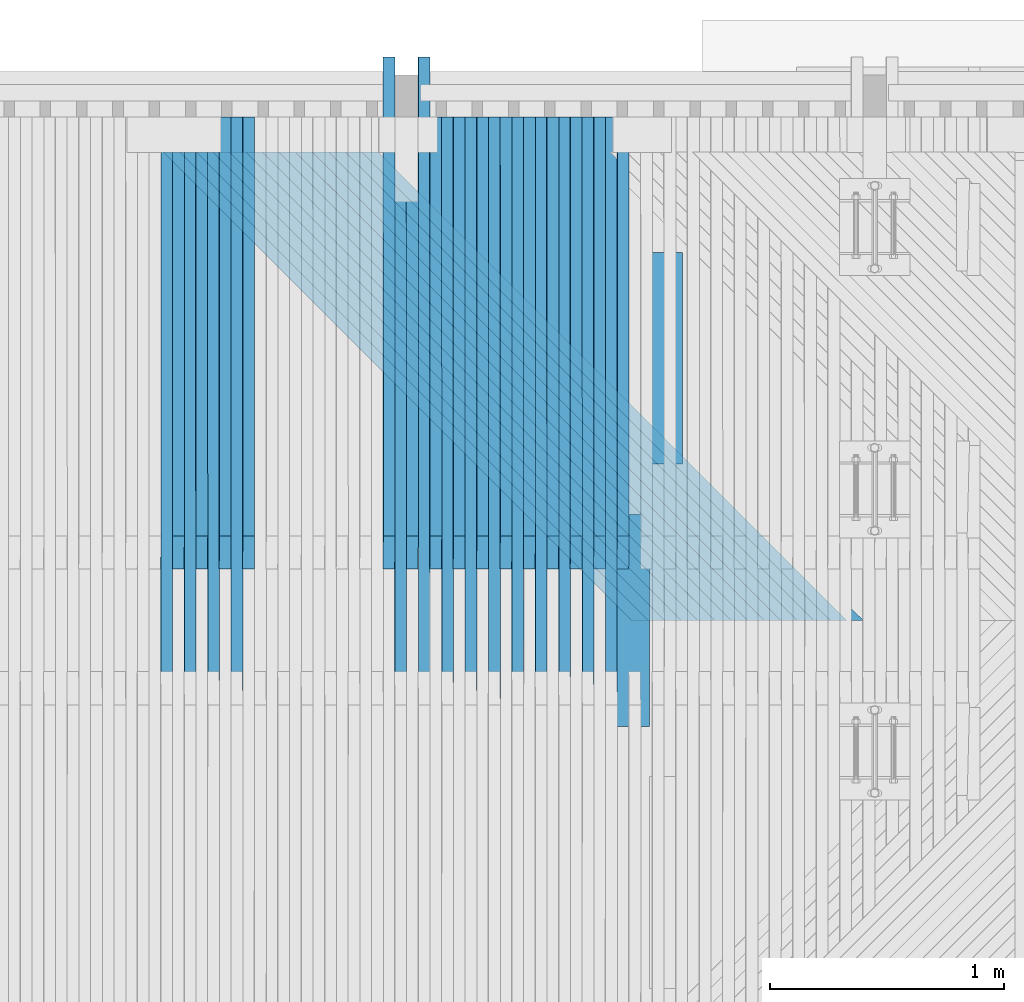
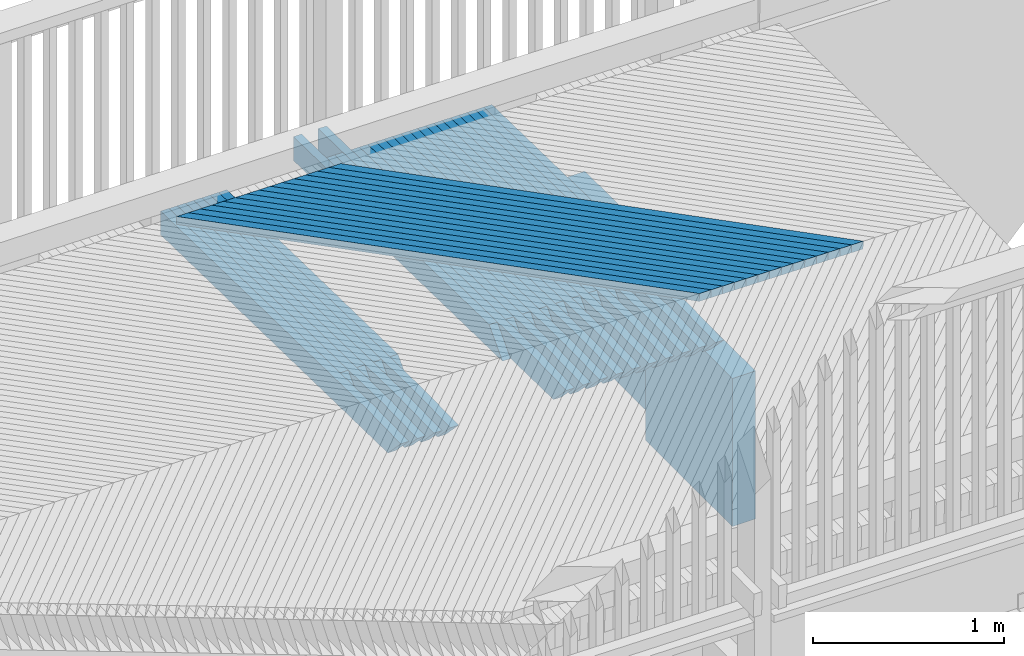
# One storey, part 42 of 52: 45 beams.
"""IFC2X3 building model written with IfcOpenShell, lengths in millimetres."""

import ifcopenshell
import ifcopenshell.guid

model = None  # the IFC model being written
_history = None  # IfcOwnerHistory: only IFC2X3 demands one
_inside = {}  # id of a spatial element -> (the spatial element, [elements in it])
_under = {}  # id of a project, library or spatial element -> (it, [spatial elements below it])
_declared = {}  # id of a project -> (the project, [libraries it declares])
_typed = {}  # id of a type object -> (the type object, [elements of that type])
_made_of = {}  # id of a material, layer set ... -> (it, [elements and type objects made of it])


def new_model(schema):
    """Start an empty IFC model of exactly this schema.

    Asked for "IFC4X3", IfcOpenShell would pick the latest addendum, in which some entities
    have other attributes; the version numbers below select the first issue.
    IFC2X3 requires an IfcOwnerHistory on every rooted entity: one is made here for all.
    """
    global model, _history
    if schema == "IFC4X3":
        model = ifcopenshell.file(schema_version=(4, 3, 0, 0))
    else:
        model = ifcopenshell.file(schema=schema)
    _inside.clear()
    _under.clear()
    _declared.clear()
    _typed.clear()
    _made_of.clear()
    _history = None
    if model.schema == "IFC2X3":
        org = make("IfcOrganization", Name="unknown")
        user = make(
            "IfcPersonAndOrganization",
            ThePerson=make("IfcPerson", FamilyName="unknown"),
            TheOrganization=org,
        )
        app = make(
            "IfcApplication",
            ApplicationDeveloper=org,
            Version="unknown",
            ApplicationFullName="unknown",
            ApplicationIdentifier="unknown",
        )
        _history = make(
            "IfcOwnerHistory",
            OwningUser=user,
            OwningApplication=app,
            ChangeAction="ADDED",
            CreationDate=0,
        )
    return model


def make(cls, **values):
    """One entity of the class cls with the attributes given. An attribute that is None is left unset."""
    return model.create_entity(
        cls, **{name: value for name, value in values.items() if value is not None}
    )


def rooted(cls, **values):
    """An entity with a GlobalId (a new one), such as an element, a storey or a relation."""
    return make(cls, GlobalId=ifcopenshell.guid.new(), OwnerHistory=_history, **values)


def si_unit(unit_type, name, prefix=None):
    """IfcSIUnit, for example si_unit("LENGTHUNIT", "METRE", prefix="MILLI")."""
    return make("IfcSIUnit", UnitType=unit_type, Prefix=prefix, Name=name)


def assignment(units):
    """IfcUnitAssignment: the units of a project."""
    return None if units is None else make("IfcUnitAssignment", Units=units)


def point(xyz):
    """IfcCartesianPoint."""
    return None if xyz is None else make("IfcCartesianPoint", Coordinates=xyz)


def direction(xyz):
    """IfcDirection."""
    return None if xyz is None else make("IfcDirection", DirectionRatios=xyz)


def frame(location, z_axis=None, x_axis=None):
    """IfcAxis2Placement3D, a coordinate frame: its origin and axes. An axis left out is left unset."""
    return make(
        "IfcAxis2Placement3D",
        Location=point(location),
        Axis=direction(z_axis),
        RefDirection=direction(x_axis),
    )


def origin_with_axes():
    """The frame at (0, 0, 0) with the z axis (0, 0, 1) and the x axis (1, 0, 0) written out."""
    return frame((0.0, 0.0, 0.0), z_axis=(0.0, 0.0, 1.0), x_axis=(1.0, 0.0, 0.0))


def place(relative_to, where):
    """IfcLocalPlacement: puts the frame where relative to a parent placement (None: the world)."""
    return make(
        "IfcLocalPlacement", PlacementRelTo=relative_to, RelativePlacement=where
    )


def context(
    kind, dimensions, precision=None, world=None, true_north=None, identifier=None
):
    """IfcGeometricRepresentationContext, for example the 3D "Model" context."""
    return make(
        "IfcGeometricRepresentationContext",
        ContextIdentifier=identifier,
        ContextType=kind,
        CoordinateSpaceDimension=dimensions,
        Precision=precision,
        WorldCoordinateSystem=world,
        TrueNorth=true_north,
    )


def subcontext(parent, identifier, kind, view, scale=None):
    """IfcGeometricRepresentationSubContext, for example "Body" below "Model"."""
    return make(
        "IfcGeometricRepresentationSubContext",
        ContextIdentifier=identifier,
        ContextType=kind,
        ParentContext=parent,
        TargetScale=scale,
        TargetView=view,
    )


def project(units=None, contexts=None):
    """IfcProject with its units and contexts."""
    return rooted(
        "IfcProject",
        Name="project",
        RepresentationContexts=contexts,
        UnitsInContext=assignment(units),
    )


def spatial(cls, under=None, at=None, **own):
    """A site, building, storey or space (cls), placed at a placement, below another one or the project."""
    s = rooted(cls, ObjectPlacement=at, **own)
    if under is not None:
        _under.setdefault(under.id(), (under, []))[1].append(s)
    return s


def faces_of(points, faces, orient=None, outer=None):
    """IfcFace entities. A face is a list of loops; a loop is a list of indices into points, from 0.

    orient and outer hold one flag for each loop. By default every Orientation is true, the
    first loop of a face is its IfcFaceOuterBound and the others are IfcFaceBound.
    """
    made = []
    for i, loops in enumerate(faces):
        bounds = []
        for j, loop in enumerate(loops):
            is_outer = j == 0 if outer is None else outer[i][j]
            bounds.append(
                make(
                    "IfcFaceOuterBound" if is_outer else "IfcFaceBound",
                    Bound=make("IfcPolyLoop", Polygon=[points[k] for k in loop]),
                    Orientation=True if orient is None else orient[i][j],
                )
            )
        made.append(make("IfcFace", Bounds=bounds))
    return made


def faceted_brep(points, faces, orient=None, outer=None, voids=None):
    """IfcFacetedBrep: a solid bounded by flat faces; with voids (closed shells), ...WithVoids."""
    shared = [point(p) for p in points]
    hull = make("IfcClosedShell", CfsFaces=faces_of(shared, faces, orient, outer))
    if voids is None:
        return make("IfcFacetedBrep", Outer=hull)
    return make(
        "IfcFacetedBrepWithVoids",
        Outer=hull,
        Voids=[
            make(cls, CfsFaces=faces_of(shared, fs, o, b)) for cls, fs, o, b in voids
        ],
    )


def shape(context_of_items, identifier, shape_type, items):
    """IfcShapeRepresentation: the items that make up one representation, for example the "Body"."""
    return make(
        "IfcShapeRepresentation",
        ContextOfItems=context_of_items,
        RepresentationIdentifier=identifier,
        RepresentationType=shape_type,
        Items=items,
    )


def material(Name=None, Category=None):
    """IfcMaterial."""
    return make("IfcMaterial", Name=Name, Category=Category)


def made_of(thing, what):
    """Note that an element or type object is made of a material, layer set ...; save() writes the relation."""
    if what is not None:
        _made_of.setdefault(what.id(), (what, []))[1].append(thing)
    return thing


def type_object(cls, material=None, **own):
    """A type object (cls), such as IfcWallType, which elements share."""
    return made_of(rooted(cls, **own), material)


def element(
    cls,
    number,
    at=None,
    inside=None,
    cuts=None,
    type_object=None,
    material=None,
    context=None,
    identifier="Body",
    shape_type=None,
    held_by="IfcProductDefinitionShape",
    body=None,
    shapes=None,
    **own,
):
    """One element of the class cls, such as IfcWall. Its Tag is "e" and its number.

    at: its placement. inside: the storey or other place that contains it. cuts: it is an
    opening in that element (IfcRelVoidsElement). A single representation is given by context,
    identifier, shape_type and body (its items); several are given by shapes. held_by: the class
    of the entity that holds the representations. save() writes the other relations.
    """
    e = rooted(cls, Tag="e%d" % number, ObjectPlacement=at, **own)
    if body is not None:
        shapes = [shape(context, identifier, shape_type, body)]
    if shapes is not None:
        e.Representation = make(held_by, Representations=shapes)
    if inside is not None:
        _inside.setdefault(inside.id(), (inside, []))[1].append(e)
    if cuts is not None:
        rooted(
            "IfcRelVoidsElement", RelatingBuildingElement=cuts, RelatedOpeningElement=e
        )
    if type_object is not None:
        _typed.setdefault(type_object.id(), (type_object, []))[1].append(e)
    return made_of(e, material)


def aggregate(whole, parts):
    """IfcRelAggregates: a whole, such as a stair, and the parts it consists of."""
    return rooted("IfcRelAggregates", RelatingObject=whole, RelatedObjects=parts)


def save(model, path):
    """Write the relations noted so far, then the file.

    IfcRelAggregates (storeys below a building ...), IfcRelContainedInSpatialStructure (elements
    in a storey), IfcRelDefinesByType, IfcRelAssociatesMaterial and IfcRelDeclares: one each for
    every whole, place, type object, material and project.
    """
    for whole, parts in _under.values():
        aggregate(whole, parts)
    for where, things in _inside.values():
        rooted(
            "IfcRelContainedInSpatialStructure",
            RelatedElements=things,
            RelatingStructure=where,
        )
    for kind, things in _typed.values():
        rooted("IfcRelDefinesByType", RelatedObjects=things, RelatingType=kind)
    for what, things in _made_of.values():
        rooted("IfcRelAssociatesMaterial", RelatedObjects=things, RelatingMaterial=what)
    for by, libraries in _declared.values():
        rooted("IfcRelDeclares", RelatingContext=by, RelatedDefinitions=libraries)
    model.write(path)


model = new_model("IFC2X3")

# Units and contexts
model_context = context("Model", 3, precision=1e-05, world=origin_with_axes())
body_context = subcontext(model_context, "Body", "Model", "MODEL_VIEW")
ifc_project = project(units=[si_unit("LENGTHUNIT", "METRE", prefix="MILLI"), si_unit("AREAUNIT", "SQUARE_METRE"), si_unit("VOLUMEUNIT", "CUBIC_METRE"), si_unit("MASSUNIT", "GRAM", prefix="KILO"), si_unit("TIMEUNIT", "SECOND"), si_unit("PLANEANGLEUNIT", "RADIAN"), si_unit("SOLIDANGLEUNIT", "STERADIAN"), si_unit("THERMODYNAMICTEMPERATUREUNIT", "DEGREE_CELSIUS"), si_unit("LUMINOUSINTENSITYUNIT", "LUMEN")], contexts=[model_context])

# Site, building, storey
site_placement = place(None, origin_with_axes())
site = spatial("IfcSite", under=ifc_project, at=site_placement, Name="Undefined", CompositionType="ELEMENT")
building_placement = place(site_placement, origin_with_axes())
building = spatial("IfcBuilding", under=site, at=building_placement, Name="Undefined", CompositionType="ELEMENT")
storey_placement = place(building_placement, origin_with_axes())
storey = spatial("IfcBuildingStorey", under=building, at=storey_placement, Name="Undefined", CompositionType="ELEMENT", Elevation=0.0)

# Beams
ifc_material = material(Name="TIMBER/Timber_Undefined")
beam_type_1 = type_object("IfcBeamType", Name="945*140", PredefinedType="NOTDEFINED")
for number, where, z_axis, x_axis in (
    (1, (14969.0, 2817.5, 2502.2279002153), (0.0, 0.0, 1.0), (0.0, -1.0, 0.0)),
    (2, (15109.0, 3937.5, 2500.4679002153), (0.0, 0.0, 1.0), (0.0, -1.0, 0.0)),
):
    element("IfcBeam", number, at=place(storey_placement, frame(where, z_axis=z_axis, x_axis=x_axis)), inside=storey, type_object=beam_type_1, material=ifc_material, Name="PALKKI", ObjectType="945*140", context=body_context, shape_type="Brep", body=[
        faceted_brep([(0.0, 70.0, -472.5), (0.0, 70.0, 472.5), (905.0, 70.0, 472.5), (905.0, 70.0, -472.5), (0.0, -70.0, 472.5), (905.0, -70.0, 472.5), (0.0, -70.0, -472.5), (905.0, -70.0, -472.5)], [[[0, 1, 2, 3]], [[1, 4, 5, 2]], [[4, 6, 7, 5]], [[6, 0, 3, 7]], [[5, 7, 3, 2]], [[6, 4, 1, 0]]]),
    ])
beam_type_2 = type_object("IfcBeamType", Name="50*50", PredefinedType="NOTDEFINED")
for number, where, z_axis, x_axis, name in (
    (3, (15915.2442465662, 2365.49989967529, 3184.09352561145), (0.706884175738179, 0.706981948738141, -0.0221649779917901), (-0.707238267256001, 0.706948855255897, -0.00611141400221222), "BEAM"),
    (4, (15844.5260699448, 2365.49989967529, 3185.01910211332), (0.706886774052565, 0.706981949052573, -0.0220819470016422), (-0.707237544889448, 0.706948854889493, -0.00619448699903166), "BEAM"),
    (5, (15773.8077850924, 2365.49989967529, 3185.93637200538), (0.706889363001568, 0.70698194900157, -0.021998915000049), (-0.707236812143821, 0.706948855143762, -0.00627756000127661), "BEAM"),
    (6, (15703.0893929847, 2365.49989967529, 3186.8453352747), (0.706891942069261, 0.706981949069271, -0.0219158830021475), (-0.707236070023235, 0.706948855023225, -0.00636063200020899), "BEAM"),
    (7, (15632.3708945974, 2365.49989967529, 3187.74599190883), (0.706894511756, 0.706981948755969, -0.021832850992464), (-0.707235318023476, 0.706948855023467, -0.00644370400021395), "BEAM"),
    (8, (15561.6522909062, 2365.49989967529, 3188.6383418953), (0.706897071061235, 0.706981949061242, -0.0217498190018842), (-0.707234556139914, 0.706948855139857, -0.00652677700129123), "BEAM"),
    (9, (15490.9335828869, 2365.49989967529, 3189.52238522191), (0.706899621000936, 0.706981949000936, -0.0216667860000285), (-0.707233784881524, 0.706948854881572, -0.00660984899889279), "BEAM"),
    (10, (15420.2147715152, 2365.49989967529, 3190.39812187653), (0.706902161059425, 0.706981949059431, -0.0215837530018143), (-0.707233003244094, 0.706948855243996, -0.00669292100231), "BEAM"),
    (11, (15349.4958577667, 2365.49989967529, 3191.26555184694), (0.706904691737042, 0.706981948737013, -0.021500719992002), (-0.707232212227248, 0.706948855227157, -0.00677599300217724), "BEAM"),
    (12, (15278.7768426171, 2365.49989967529, 3192.12467512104), (0.706907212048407, 0.706981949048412, -0.0214176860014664), (-0.707231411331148, 0.706948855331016, -0.00685906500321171), "BEAM"),
    (13, (15208.0577270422, 2365.49989967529, 3192.97549168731), (0.706909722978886, 0.706981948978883, -0.0213346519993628), (-0.707230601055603, 0.706948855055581, -0.00694213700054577), "BEAM"),
    (14, (15137.3385120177, 2365.49989967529, 3193.81800153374), (0.706912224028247, 0.70698194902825, -0.021251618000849), (-0.70722978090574, 0.706948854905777, -0.00702520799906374), "BEAM"),
    (15, (15066.6191985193, 2365.49989967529, 3194.65220464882), (0.706914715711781, 0.706981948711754, -0.0211685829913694), (-0.707228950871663, 0.706948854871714, -0.00710827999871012), "BEAM"),
    (16, (14995.8997875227, 2365.49989967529, 3195.47810102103), (0.706917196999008, 0.706981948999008, -0.0210855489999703), (-0.707228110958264, 0.706948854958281, -0.00719135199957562), "BEAM"),
):
    element("IfcBeam", number, at=place(storey_placement, frame(where, z_axis=z_axis, x_axis=x_axis)), inside=storey, type_object=beam_type_2, material=ifc_material, Name=name, ObjectType="50*50", context=body_context, shape_type="Brep", body=[
        faceted_brep([(23.5869248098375, 25.0, -25.0000000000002), (-26.4154158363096, 25.0000000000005, 24.9999999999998), (2802.92643296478, 25.0, 24.9999999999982), (2852.92877373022, 25.0000000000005, -25.0), (-25.0011704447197, -25.0, 24.9999999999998), (2804.3406783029, -25.0000000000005, 24.9999999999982), (25.0011701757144, -25.0, -25.0), (2854.34301907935, -24.9999999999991, -25.0)], [[[0, 1, 2, 3]], [[1, 4, 5, 2]], [[4, 6, 7, 5]], [[6, 0, 3, 7]], [[5, 7, 3, 2]], [[6, 4, 1, 0]]]),
    ])
beam_type_3 = type_object("IfcBeamType", Name="150*50", PredefinedType="NOTDEFINED")
beam_1_placement = place(storey_placement, frame((14874.6038632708, 4513.4953923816, 3053.88204159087), z_axis=(0.0113405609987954, 0.0199960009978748, 0.999735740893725), x_axis=(0.000226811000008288, -0.999800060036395, 0.0199947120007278)))
element("IfcBeam", 17, at=beam_1_placement, inside=storey, type_object=beam_type_3, material=ifc_material, Name="BEAM", ObjectType="150*50", context=body_context, shape_type="Brep", body=[
    faceted_brep([(-1.67788130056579e-07, -24.9999999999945, -74.9999999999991), (-1.67787220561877e-07, 25.0000000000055, -75.0), (2375.00494422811, 25.0000000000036, -74.9999999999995), (2375.0049444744, -24.9999999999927, -74.9999999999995), (1.67786311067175e-07, -24.9999999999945, 75.0000000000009), (1.67786311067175e-07, 25.0000000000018, 75.0), (2150.42515052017, 25.0000000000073, 75.0), (2510.59248715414, 25.0000000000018, 60.5875433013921), (2510.5924871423, -24.9999999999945, 60.5875430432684), (2150.42514405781, -24.9999999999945, 75.0000000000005)], [[[0, 1, 2, 3]], [[0, 4, 5, 1]], [[2, 1, 5, 6, 7]], [[3, 2, 7, 8]], [[4, 0, 3, 8, 9]], [[5, 4, 9, 6]], [[8, 7, 6, 9]]]),
])
beam_2_placement = place(storey_placement, frame((14924.6205833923, 4513.49539238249, 3053.30636416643), z_axis=(0.0115066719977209, 0.0199960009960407, 0.999733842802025), x_axis=(0.00023013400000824, -0.999800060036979, 0.0199946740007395)))
element("IfcBeam", 18, at=beam_2_placement, inside=storey, type_object=beam_type_3, material=ifc_material, Name="BEAM", ObjectType="150*50", context=body_context, shape_type="Brep", body=[
    faceted_brep([(-1.67788130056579e-07, -24.9999999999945, -74.9999999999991), (1.67786311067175e-07, -24.9999999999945, 75.0000000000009), (1.67786311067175e-07, 25.0000000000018, 75.0), (-1.67787220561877e-07, 25.0000000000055, -75.0), (1789.96936408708, 24.9999999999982, 75.0000000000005), (1928.42646328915, 24.9999999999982, -74.9999999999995), (1928.42646353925, -25.0, -75.0), (1789.96936433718, -25.0000000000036, 74.9999999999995)], [[[0, 1, 2, 3]], [[3, 2, 4, 5]], [[0, 3, 5, 6]], [[1, 0, 6, 7]], [[2, 1, 7, 4]], [[5, 4, 7, 6]]]),
])
beam_3_placement = place(storey_placement, frame((14774.590259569, 4513.4953923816, 3055.01598487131), z_axis=(0.0111744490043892, 0.0199960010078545, 0.99973761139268), x_axis=(0.000223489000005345, -0.999800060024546, 0.0199947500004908)))
element("IfcBeam", 19, at=beam_3_placement, inside=storey, type_object=beam_type_3, material=ifc_material, Name="BEAM", ObjectType="150*50", context=body_context, shape_type="Brep", body=[
    faceted_brep([(-1.67788130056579e-07, -24.9999999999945, -74.9999999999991), (-1.67787220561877e-07, 25.0000000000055, -75.0), (2375.00494422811, 25.0000000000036, -74.9999999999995), (2375.0049444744, -24.9999999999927, -74.9999999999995), (1.67786311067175e-07, -24.9999999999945, 75.0000000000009), (1.67786311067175e-07, 25.0000000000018, 75.0), (2150.42515052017, 25.0000000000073, 75.0), (2510.59248715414, 25.0000000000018, 60.5875433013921), (2510.5924871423, -24.9999999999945, 60.5875430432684), (2150.42514405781, -24.9999999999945, 75.0000000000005)], [[[0, 1, 2, 3]], [[0, 4, 5, 1]], [[2, 1, 5, 6, 7]], [[3, 2, 7, 8]], [[4, 0, 3, 8, 9]], [[5, 4, 9, 6]], [[8, 7, 6, 9]]]),
])
beam_4_placement = place(storey_placement, frame((14824.6070746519, 4513.49539238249, 3054.44861800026), z_axis=(0.0113405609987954, 0.0199960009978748, 0.999735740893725), x_axis=(0.000226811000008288, -0.999800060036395, 0.0199947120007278)))
element("IfcBeam", 20, at=beam_4_placement, inside=storey, type_object=beam_type_3, material=ifc_material, Name="BEAM", ObjectType="150*50", context=body_context, shape_type="Brep", body=[
    faceted_brep([(-1.67788130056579e-07, -24.9999999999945, -74.9999999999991), (1.67786311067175e-07, -24.9999999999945, 75.0000000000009), (1.67786311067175e-07, 25.0000000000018, 75.0), (-1.67787220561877e-07, 25.0000000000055, -75.0), (1789.96936408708, 24.9999999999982, 75.0000000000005), (1928.42646328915, 24.9999999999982, -74.9999999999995), (1928.42646353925, -25.0, -75.0), (1789.96936433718, -25.0000000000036, 74.9999999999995)], [[[0, 1, 2, 3]], [[3, 2, 4, 5]], [[0, 3, 5, 6]], [[1, 0, 6, 7]], [[2, 1, 7, 4]], [[5, 4, 7, 6]]]),
])
beam_5_placement = place(storey_placement, frame((14674.576468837, 4513.4953923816, 3056.13331034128), z_axis=(0.0110083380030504, 0.019996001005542, 0.999739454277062), x_axis=(0.000220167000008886, -0.999800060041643, 0.0199947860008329)))
element("IfcBeam", 21, at=beam_5_placement, inside=storey, type_object=beam_type_3, material=ifc_material, Name="BEAM", ObjectType="150*50", context=body_context, shape_type="Brep", body=[
    faceted_brep([(-1.67788130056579e-07, -24.9999999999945, -74.9999999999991), (-1.67787220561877e-07, 25.0000000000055, -75.0), (2375.00494422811, 25.0000000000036, -74.9999999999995), (2375.0049444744, -24.9999999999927, -74.9999999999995), (1.67786311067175e-07, -24.9999999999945, 75.0000000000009), (1.67786311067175e-07, 25.0000000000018, 75.0), (2150.42515052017, 25.0000000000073, 75.0), (2510.59248715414, 25.0000000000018, 60.5875433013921), (2510.5924871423, -24.9999999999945, 60.5875430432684), (2150.42514405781, -24.9999999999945, 75.0000000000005)], [[[0, 1, 2, 3]], [[0, 4, 5, 1]], [[2, 1, 5, 6, 7]], [[3, 2, 7, 8]], [[4, 0, 3, 8, 9]], [[5, 4, 9, 6]], [[8, 7, 6, 9]]]),
])
beam_6_placement = place(storey_placement, frame((14724.5933775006, 4513.49539238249, 3055.57425403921), z_axis=(0.0111744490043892, 0.0199960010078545, 0.99973761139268), x_axis=(0.000223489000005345, -0.999800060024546, 0.0199947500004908)))
element("IfcBeam", 22, at=beam_6_placement, inside=storey, type_object=beam_type_3, material=ifc_material, Name="BEAM", ObjectType="150*50", context=body_context, shape_type="Brep", body=[
    faceted_brep([(-1.67788130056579e-07, -24.9999999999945, -74.9999999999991), (1.67786311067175e-07, -24.9999999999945, 75.0000000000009), (1.67786311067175e-07, 25.0000000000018, 75.0), (-1.67787220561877e-07, 25.0000000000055, -75.0), (1789.96936408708, 24.9999999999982, 75.0000000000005), (1928.42646328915, 24.9999999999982, -74.9999999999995), (1928.42646353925, -25.0, -75.0), (1789.96936433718, -25.0000000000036, 74.9999999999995)], [[[0, 1, 2, 3]], [[3, 2, 4, 5]], [[0, 3, 5, 6]], [[1, 0, 6, 7]], [[2, 1, 7, 4]], [[5, 4, 7, 6]]]),
])
beam_7_placement = place(storey_placement, frame((14574.562493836, 4513.4953923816, 3057.23401797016), z_axis=(0.0108422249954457, 0.0199960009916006, 0.999741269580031), x_axis=(0.000216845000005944, -0.999800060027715, 0.0199948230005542)))
element("IfcBeam", 23, at=beam_7_placement, inside=storey, type_object=beam_type_3, material=ifc_material, Name="BEAM", ObjectType="150*50", context=body_context, shape_type="Brep", body=[
    faceted_brep([(-1.67788130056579e-07, -24.9999999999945, -74.9999999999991), (-1.67787220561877e-07, 25.0000000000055, -75.0), (2375.00494422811, 25.0000000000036, -74.9999999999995), (2375.0049444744, -24.9999999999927, -74.9999999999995), (1.67786311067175e-07, -24.9999999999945, 75.0000000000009), (1.67786311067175e-07, 25.0000000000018, 75.0), (2150.42515052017, 25.0000000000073, 75.0), (2510.59248715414, 25.0000000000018, 60.5875433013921), (2510.5924871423, -24.9999999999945, 60.5875430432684), (2150.42514405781, -24.9999999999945, 75.0000000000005)], [[[0, 1, 2, 3]], [[0, 4, 5, 1]], [[2, 1, 5, 6, 7]], [[3, 2, 7, 8]], [[4, 0, 3, 8, 9]], [[5, 4, 9, 6]], [[8, 7, 6, 9]]]),
])
beam_8_placement = place(storey_placement, frame((14624.5794946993, 4513.49539238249, 3056.68327225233), z_axis=(0.0110083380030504, 0.019996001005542, 0.999739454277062), x_axis=(0.000220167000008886, -0.999800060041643, 0.0199947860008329)))
element("IfcBeam", 24, at=beam_8_placement, inside=storey, type_object=beam_type_3, material=ifc_material, Name="BEAM", ObjectType="150*50", context=body_context, shape_type="Brep", body=[
    faceted_brep([(-1.67788130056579e-07, -24.9999999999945, -74.9999999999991), (1.67786311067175e-07, -24.9999999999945, 75.0000000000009), (1.67786311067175e-07, 25.0000000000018, 75.0), (-1.67787220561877e-07, 25.0000000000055, -75.0), (1789.96936408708, 24.9999999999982, 75.0000000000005), (1928.42646328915, 24.9999999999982, -74.9999999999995), (1928.42646353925, -25.0, -75.0), (1789.96936433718, -25.0000000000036, 74.9999999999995)], [[[0, 1, 2, 3]], [[3, 2, 4, 5]], [[0, 3, 5, 6]], [[1, 0, 6, 7]], [[2, 1, 7, 4]], [[5, 4, 7, 6]]]),
])
beam_9_placement = place(storey_placement, frame((14474.5483373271, 4513.4953923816, 3058.31810772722), z_axis=(0.0106761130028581, 0.0199960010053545, 0.999743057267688), x_axis=(0.000213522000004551, -0.999800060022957, 0.0199948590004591)))
element("IfcBeam", 25, at=beam_9_placement, inside=storey, type_object=beam_type_3, material=ifc_material, Name="BEAM", ObjectType="150*50", context=body_context, shape_type="Brep", body=[
    faceted_brep([(-1.67788130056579e-07, -24.9999999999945, -74.9999999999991), (-1.67787220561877e-07, 25.0000000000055, -75.0), (2375.00494422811, 25.0000000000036, -74.9999999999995), (2375.0049444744, -24.9999999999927, -74.9999999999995), (1.67786311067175e-07, -24.9999999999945, 75.0000000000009), (1.67786311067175e-07, 25.0000000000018, 75.0), (2150.42515052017, 25.0000000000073, 75.0), (2510.59248715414, 25.0000000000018, 60.5875433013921), (2510.5924871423, -24.9999999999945, 60.5875430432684), (2150.42514405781, -24.9999999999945, 75.0000000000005)], [[[0, 1, 2, 3]], [[0, 4, 5, 1]], [[2, 1, 5, 6, 7]], [[3, 2, 7, 8]], [[4, 0, 3, 8, 9]], [[5, 4, 9, 6]], [[8, 7, 6, 9]]]),
])
beam_10_placement = place(storey_placement, frame((14524.5654290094, 4513.49539238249, 3057.77567260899), z_axis=(0.0108422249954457, 0.0199960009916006, 0.999741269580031), x_axis=(0.000216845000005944, -0.999800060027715, 0.0199948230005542)))
element("IfcBeam", 26, at=beam_10_placement, inside=storey, type_object=beam_type_3, material=ifc_material, Name="BEAM", ObjectType="150*50", context=body_context, shape_type="Brep", body=[
    faceted_brep([(-1.67788130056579e-07, -24.9999999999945, -74.9999999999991), (1.67786311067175e-07, -24.9999999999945, 75.0000000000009), (1.67786311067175e-07, 25.0000000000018, 75.0), (-1.67787220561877e-07, 25.0000000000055, -75.0), (1789.96936408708, 24.9999999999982, 75.0000000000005), (1928.42646328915, 24.9999999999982, -74.9999999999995), (1928.42646353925, -25.0, -75.0), (1789.96936433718, -25.0000000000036, 74.9999999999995)], [[[0, 1, 2, 3]], [[3, 2, 4, 5]], [[0, 3, 5, 6]], [[1, 0, 6, 7]], [[2, 1, 7, 4]], [[5, 4, 7, 6]]]),
])
beam_11_placement = place(storey_placement, frame((14374.5340020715, 4513.4953923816, 3059.38557958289), z_axis=(0.0105100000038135, 0.0199960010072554, 0.99974481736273), x_axis=(0.000210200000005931, -0.999800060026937, 0.0199948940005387)))
element("IfcBeam", 27, at=beam_11_placement, inside=storey, type_object=beam_type_3, material=ifc_material, Name="BEAM", ObjectType="150*50", context=body_context, shape_type="Brep", body=[
    faceted_brep([(-1.67788130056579e-07, -24.9999999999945, -74.9999999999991), (-1.67787220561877e-07, 25.0000000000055, -75.0), (2375.00494422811, 25.0000000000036, -74.9999999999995), (2375.0049444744, -24.9999999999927, -74.9999999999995), (1.67786311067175e-07, -24.9999999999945, 75.0000000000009), (1.67786311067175e-07, 25.0000000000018, 75.0), (2150.42515052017, 25.0000000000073, 75.0), (2510.59248715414, 25.0000000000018, 60.5875433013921), (2510.5924871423, -24.9999999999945, 60.5875430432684), (2150.42514405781, -24.9999999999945, 75.0000000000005)], [[[0, 1, 2, 3]], [[0, 4, 5, 1]], [[2, 1, 5, 6, 7]], [[3, 2, 7, 8]], [[4, 0, 3, 8, 9]], [[5, 4, 9, 6]], [[8, 7, 6, 9]]]),
])
beam_12_placement = place(storey_placement, frame((14424.5511831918, 4513.49539238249, 3058.85145507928), z_axis=(0.0106761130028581, 0.0199960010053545, 0.999743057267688), x_axis=(0.000213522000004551, -0.999800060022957, 0.0199948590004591)))
element("IfcBeam", 28, at=beam_12_placement, inside=storey, type_object=beam_type_3, material=ifc_material, Name="BEAM", ObjectType="150*50", context=body_context, shape_type="Brep", body=[
    faceted_brep([(-1.67788130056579e-07, -24.9999999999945, -74.9999999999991), (1.67786311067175e-07, -24.9999999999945, 75.0000000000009), (1.67786311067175e-07, 25.0000000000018, 75.0), (-1.67787220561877e-07, 25.0000000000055, -75.0), (1789.96936408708, 24.9999999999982, 75.0000000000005), (1928.42646328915, 24.9999999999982, -74.9999999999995), (1928.42646353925, -25.0, -75.0), (1789.96936433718, -25.0000000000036, 74.9999999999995)], [[[0, 1, 2, 3]], [[3, 2, 4, 5]], [[0, 3, 5, 6]], [[1, 0, 6, 7]], [[2, 1, 7, 4]], [[5, 4, 7, 6]]]),
])
beam_13_placement = place(storey_placement, frame((14274.5194908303, 4513.4953923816, 3060.43643350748), z_axis=(0.010343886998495, 0.0199960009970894, 0.999746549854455), x_axis=(0.000206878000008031, -0.999800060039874, 0.0199949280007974)))
element("IfcBeam", 29, at=beam_13_placement, inside=storey, type_object=beam_type_3, material=ifc_material, Name="BEAM", ObjectType="150*50", context=body_context, shape_type="Brep", body=[
    faceted_brep([(-1.67788130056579e-07, -24.9999999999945, -74.9999999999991), (-1.67787220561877e-07, 25.0000000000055, -75.0), (2375.00494422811, 25.0000000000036, -74.9999999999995), (2375.0049444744, -24.9999999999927, -74.9999999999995), (1.67786311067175e-07, -24.9999999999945, 75.0000000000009), (1.67786311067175e-07, 25.0000000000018, 75.0), (2150.42515052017, 25.0000000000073, 75.0), (2510.59248715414, 25.0000000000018, 60.5875433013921), (2510.5924871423, -24.9999999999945, 60.5875430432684), (2150.42514405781, -24.9999999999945, 75.0000000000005)], [[[0, 1, 2, 3]], [[0, 4, 5, 1]], [[2, 1, 5, 6, 7]], [[3, 2, 7, 8]], [[4, 0, 3, 8, 9]], [[5, 4, 9, 6]], [[8, 7, 6, 9]]]),
])
beam_14_placement = place(storey_placement, frame((14324.5367600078, 4513.49539238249, 3059.91061963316), z_axis=(0.0105100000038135, 0.0199960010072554, 0.99974481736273), x_axis=(0.000210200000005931, -0.999800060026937, 0.0199948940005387)))
element("IfcBeam", 30, at=beam_14_placement, inside=storey, type_object=beam_type_3, material=ifc_material, Name="BEAM", ObjectType="150*50", context=body_context, shape_type="Brep", body=[
    faceted_brep([(-1.67788130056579e-07, -24.9999999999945, -74.9999999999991), (1.67786311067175e-07, -24.9999999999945, 75.0000000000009), (1.67786311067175e-07, 25.0000000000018, 75.0), (-1.67787220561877e-07, 25.0000000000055, -75.0), (1789.96936408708, 24.9999999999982, 75.0000000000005), (1928.42646328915, 24.9999999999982, -74.9999999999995), (1928.42646353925, -25.0, -75.0), (1789.96936433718, -25.0000000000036, 74.9999999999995)], [[[0, 1, 2, 3]], [[3, 2, 4, 5]], [[0, 3, 5, 6]], [[1, 0, 6, 7]], [[2, 1, 7, 4]], [[5, 4, 7, 6]]]),
])
beam_15_placement = place(storey_placement, frame((14174.5048063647, 4513.4953923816, 3061.47066947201), z_axis=(0.0101777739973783, 0.0199960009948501, 0.999748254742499), x_axis=(0.000203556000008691, -0.999800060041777, 0.0199949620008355)))
element("IfcBeam", 31, at=beam_15_placement, inside=storey, type_object=beam_type_3, material=ifc_material, Name="BEAM", ObjectType="150*50", context=body_context, shape_type="Brep", body=[
    faceted_brep([(-1.67788130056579e-07, -24.9999999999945, -74.9999999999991), (-1.67787220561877e-07, 25.0000000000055, -75.0), (2375.00494422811, 25.0000000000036, -74.9999999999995), (2375.0049444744, -24.9999999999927, -74.9999999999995), (1.67786311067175e-07, -24.9999999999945, 75.0000000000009), (1.67786311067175e-07, 25.0000000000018, 75.0), (2150.42515052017, 25.0000000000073, 75.0), (2510.59248715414, 25.0000000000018, 60.5875433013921), (2510.5924871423, -24.9999999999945, 60.5875430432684), (2150.42514405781, -24.9999999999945, 75.0000000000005)], [[[0, 1, 2, 3]], [[0, 4, 5, 1]], [[2, 1, 5, 6, 7]], [[3, 2, 7, 8]], [[4, 0, 3, 8, 9]], [[5, 4, 9, 6]], [[8, 7, 6, 9]]]),
])
for number, where, z_axis, x_axis, name in (
    (32, (14224.5221622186, 4513.49539238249, 3060.95316624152), (0.010343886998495, 0.0199960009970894, 0.999746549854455), (0.000206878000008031, -0.999800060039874, 0.0199949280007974), "BEAM"),
    (33, (14124.5073925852, 4513.49539238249, 3061.97909487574), (0.0101777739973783, 0.0199960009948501, 0.999748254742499), (0.000203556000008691, -0.999800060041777, 0.0199949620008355), "BEAM"),
):
    element("IfcBeam", number, at=place(storey_placement, frame(where, z_axis=z_axis, x_axis=x_axis)), inside=storey, type_object=beam_type_3, material=ifc_material, Name=name, ObjectType="150*50", context=body_context, shape_type="Brep", body=[
        faceted_brep([(-1.67788130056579e-07, -24.9999999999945, -74.9999999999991), (1.67786311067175e-07, -24.9999999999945, 75.0000000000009), (1.67786311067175e-07, 25.0000000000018, 75.0), (-1.67787220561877e-07, 25.0000000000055, -75.0), (1789.96936408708, 24.9999999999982, 75.0000000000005), (1928.42646328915, 24.9999999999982, -74.9999999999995), (1928.42646353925, -25.0, -75.0), (1789.96936433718, -25.0000000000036, 74.9999999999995)], [[[0, 1, 2, 3]], [[3, 2, 4, 5]], [[0, 3, 5, 6]], [[1, 0, 6, 7]], [[2, 1, 7, 4]], [[5, 4, 7, 6]]]),
    ])
beam_16_placement = place(storey_placement, frame((13974.4749288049, 4513.4953923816, 3063.48928740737), z_axis=(0.00984554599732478, 0.0199960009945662, 0.999751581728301), x_axis=(0.000196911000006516, -0.999800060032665, 0.0199950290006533)))
element("IfcBeam", 34, at=beam_16_placement, inside=storey, type_object=beam_type_3, material=ifc_material, Name="BEAM", ObjectType="150*50", context=body_context, shape_type="Brep", body=[
    faceted_brep([(-1.67788130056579e-07, -24.9999999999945, -74.9999999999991), (-1.67787220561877e-07, 25.0000000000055, -75.0), (2375.00494422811, 25.0000000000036, -74.9999999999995), (2375.0049444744, -24.9999999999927, -74.9999999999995), (1.67786311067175e-07, -24.9999999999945, 75.0000000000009), (1.67786311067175e-07, 25.0000000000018, 75.0), (2150.42515052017, 25.0000000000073, 75.0), (2510.59248715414, 25.0000000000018, 60.5875433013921), (2510.5924871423, -24.9999999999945, 60.5875430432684), (2150.42514405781, -24.9999999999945, 75.0000000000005)], [[[0, 1, 2, 3]], [[0, 4, 5, 1]], [[2, 1, 5, 6, 7]], [[3, 2, 7, 8]], [[4, 0, 3, 8, 9]], [[5, 4, 9, 6]], [[8, 7, 6, 9]]]),
])
beam_17_placement = place(storey_placement, frame((14024.4924538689, 4513.49539238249, 3062.98840550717), z_axis=(0.0100116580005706, 0.0199960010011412, 0.999749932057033), x_axis=(0.000200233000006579, -0.999800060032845, 0.0199949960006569)))
element("IfcBeam", 35, at=beam_17_placement, inside=storey, type_object=beam_type_3, material=ifc_material, Name="BEAM", ObjectType="150*50", context=body_context, shape_type="Brep", body=[
    faceted_brep([(-1.67788130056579e-07, -24.9999999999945, -74.9999999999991), (1.67786311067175e-07, -24.9999999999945, 75.0000000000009), (1.67786311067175e-07, 25.0000000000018, 75.0), (-1.67787220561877e-07, 25.0000000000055, -75.0), (1789.96936408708, 24.9999999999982, 75.0000000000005), (1928.42646328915, 24.9999999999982, -74.9999999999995), (1928.42646353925, -25.0, -75.0), (1789.96936433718, -25.0000000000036, 74.9999999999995)], [[[0, 1, 2, 3]], [[3, 2, 4, 5]], [[0, 3, 5, 6]], [[1, 0, 6, 7]], [[2, 1, 7, 4]], [[5, 4, 7, 6]]]),
])
beam_18_placement = place(storey_placement, frame((13274.9653062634, 4513.4953923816, 3070.03167824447), z_axis=(0.00868274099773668, 0.0199960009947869, 0.999762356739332), x_axis=(0.000173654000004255, -0.999800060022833, 0.0199952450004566)))
element("IfcBeam", 36, at=beam_18_placement, inside=storey, type_object=beam_type_3, material=ifc_material, Name="BEAM", ObjectType="150*50", context=body_context, shape_type="Brep", body=[
    faceted_brep([(-1.67788130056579e-07, -24.9999999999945, -74.9999999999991), (-1.67787220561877e-07, 25.0000000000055, -75.0), (2375.00494422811, 25.0000000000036, -74.9999999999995), (2375.0049444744, -24.9999999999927, -74.9999999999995), (1.67786311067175e-07, -24.9999999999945, 75.0000000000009), (1.67786311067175e-07, 25.0000000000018, 75.0), (2150.42515052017, 25.0000000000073, 75.0), (2510.59248715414, 25.0000000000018, 60.5875433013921), (2510.5924871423, -24.9999999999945, 60.5875430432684), (2150.42514405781, -24.9999999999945, 75.0000000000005)], [[[0, 1, 2, 3]], [[0, 4, 5, 1]], [[2, 1, 5, 6, 7]], [[3, 2, 7, 8]], [[4, 0, 3, 8, 9]], [[5, 4, 9, 6]], [[8, 7, 6, 9]]]),
])
beam_19_placement = place(storey_placement, frame((13324.9833800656, 4513.49539238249, 3069.5889714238), z_axis=(0.00884885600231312, 0.0199960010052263, 0.999760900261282), x_axis=(0.000176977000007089, -0.999800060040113, 0.0199952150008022)))
element("IfcBeam", 37, at=beam_19_placement, inside=storey, type_object=beam_type_3, material=ifc_material, Name="BEAM", ObjectType="150*50", context=body_context, shape_type="Brep", body=[
    faceted_brep([(-1.67788130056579e-07, -24.9999999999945, -74.9999999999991), (1.67786311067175e-07, -24.9999999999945, 75.0000000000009), (1.67786311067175e-07, 25.0000000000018, 75.0), (-1.67787220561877e-07, 25.0000000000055, -75.0), (1789.96936408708, 24.9999999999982, 75.0000000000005), (1928.42646328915, 24.9999999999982, -74.9999999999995), (1928.42646353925, -25.0, -75.0), (1789.96936433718, -25.0000000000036, 74.9999999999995)], [[[0, 1, 2, 3]], [[3, 2, 4, 5]], [[0, 3, 5, 6]], [[1, 0, 6, 7]], [[2, 1, 7, 4]], [[5, 4, 7, 6]]]),
])
beam_20_placement = place(storey_placement, frame((13174.9490412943, 4513.4953923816, 3070.89983280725), z_axis=(0.00851662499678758, 0.0199960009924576, 0.999763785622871), x_axis=(0.000170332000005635, -0.999800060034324, 0.0199952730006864)))
element("IfcBeam", 38, at=beam_20_placement, inside=storey, type_object=beam_type_3, material=ifc_material, Name="BEAM", ObjectType="150*50", context=body_context, shape_type="Brep", body=[
    faceted_brep([(-1.67788130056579e-07, -24.9999999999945, -74.9999999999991), (-1.67787220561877e-07, 25.0000000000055, -75.0), (2375.00494422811, 25.0000000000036, -74.9999999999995), (2375.0049444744, -24.9999999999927, -74.9999999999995), (1.67786311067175e-07, -24.9999999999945, 75.0000000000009), (1.67786311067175e-07, 25.0000000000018, 75.0), (2150.42515052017, 25.0000000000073, 75.0), (2510.59248715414, 25.0000000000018, 60.5875433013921), (2510.5924871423, -24.9999999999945, 60.5875430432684), (2150.42514405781, -24.9999999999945, 75.0000000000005)], [[[0, 1, 2, 3]], [[0, 4, 5, 1]], [[2, 1, 5, 6, 7]], [[3, 2, 7, 8]], [[4, 0, 3, 8, 9]], [[5, 4, 9, 6]], [[8, 7, 6, 9]]]),
])
beam_21_placement = place(storey_placement, frame((13224.9671879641, 4513.49539238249, 3070.4654367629), z_axis=(0.00868274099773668, 0.0199960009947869, 0.999762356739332), x_axis=(0.000173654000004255, -0.999800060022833, 0.0199952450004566)))
element("IfcBeam", 39, at=beam_21_placement, inside=storey, type_object=beam_type_3, material=ifc_material, Name="BEAM", ObjectType="150*50", context=body_context, shape_type="Brep", body=[
    faceted_brep([(-1.67788130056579e-07, -24.9999999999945, -74.9999999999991), (1.67786311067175e-07, -24.9999999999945, 75.0000000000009), (1.67786311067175e-07, 25.0000000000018, 75.0), (-1.67787220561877e-07, 25.0000000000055, -75.0), (1789.96936408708, 24.9999999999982, 75.0000000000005), (1928.42646328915, 24.9999999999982, -74.9999999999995), (1928.42646353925, -25.0, -75.0), (1789.96936433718, -25.0000000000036, 74.9999999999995)], [[[0, 1, 2, 3]], [[3, 2, 4, 5]], [[0, 3, 5, 6]], [[1, 0, 6, 7]], [[2, 1, 7, 4]], [[5, 4, 7, 6]]]),
])
beam_22_placement = place(storey_placement, frame((13074.9326334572, 4513.4953923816, 3071.75136912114), z_axis=(0.00835050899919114, 0.0199960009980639, 0.999765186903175), x_axis=(0.000167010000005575, -0.999800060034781, 0.0199953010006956)))
element("IfcBeam", 40, at=beam_22_placement, inside=storey, type_object=beam_type_3, material=ifc_material, Name="BEAM", ObjectType="150*50", context=body_context, shape_type="Brep", body=[
    faceted_brep([(-1.67788130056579e-07, -24.9999999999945, -74.9999999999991), (-1.67787220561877e-07, 25.0000000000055, -75.0), (2375.00494422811, 25.0000000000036, -74.9999999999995), (2375.0049444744, -24.9999999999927, -74.9999999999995), (1.67786311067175e-07, -24.9999999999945, 75.0000000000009), (1.67786311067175e-07, 25.0000000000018, 75.0), (2150.42515052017, 25.0000000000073, 75.0), (2510.59248715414, 25.0000000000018, 60.5875433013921), (2510.5924871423, -24.9999999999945, 60.5875430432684), (2150.42514405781, -24.9999999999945, 75.0000000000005)], [[[0, 1, 2, 3]], [[0, 4, 5, 1]], [[2, 1, 5, 6, 7]], [[3, 2, 7, 8]], [[4, 0, 3, 8, 9]], [[5, 4, 9, 6]], [[8, 7, 6, 9]]]),
])
beam_23_placement = place(storey_placement, frame((13124.9508516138, 4513.49539238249, 3071.32528386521), z_axis=(0.00851662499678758, 0.0199960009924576, 0.999763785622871), x_axis=(0.000170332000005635, -0.999800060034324, 0.0199952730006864)))
element("IfcBeam", 41, at=beam_23_placement, inside=storey, type_object=beam_type_3, material=ifc_material, Name="BEAM", ObjectType="150*50", context=body_context, shape_type="Brep", body=[
    faceted_brep([(-1.67788130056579e-07, -24.9999999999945, -74.9999999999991), (1.67786311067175e-07, -24.9999999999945, 75.0000000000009), (1.67786311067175e-07, 25.0000000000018, 75.0), (-1.67787220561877e-07, 25.0000000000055, -75.0), (1789.96936408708, 24.9999999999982, 75.0000000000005), (1928.42646328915, 24.9999999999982, -74.9999999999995), (1928.42646353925, -25.0, -75.0), (1789.96936433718, -25.0000000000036, 74.9999999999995)], [[[0, 1, 2, 3]], [[3, 2, 4, 5]], [[0, 3, 5, 6]], [[1, 0, 6, 7]], [[2, 1, 7, 4]], [[5, 4, 7, 6]]]),
])
beam_24_placement = place(storey_placement, frame((12974.9160855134, 4513.4953923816, 3072.5862871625), z_axis=(0.00818439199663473, 0.0199960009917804, 0.999766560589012), x_axis=(0.000163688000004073, -0.999800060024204, 0.019995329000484)))
element("IfcBeam", 42, at=beam_24_placement, inside=storey, type_object=beam_type_3, material=ifc_material, Name="BEAM", ObjectType="150*50", context=body_context, shape_type="Brep", body=[
    faceted_brep([(-1.67788130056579e-07, -24.9999999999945, -74.9999999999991), (-1.67787220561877e-07, 25.0000000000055, -75.0), (2375.00494422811, 25.0000000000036, -74.9999999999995), (2375.0049444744, -24.9999999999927, -74.9999999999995), (1.67786311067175e-07, -24.9999999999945, 75.0000000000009), (1.67786311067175e-07, 25.0000000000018, 75.0), (2150.42515052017, 25.0000000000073, 75.0), (2510.59248715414, 25.0000000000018, 60.5875433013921), (2510.5924871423, -24.9999999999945, 60.5875430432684), (2150.42514405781, -24.9999999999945, 75.0000000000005)], [[[0, 1, 2, 3]], [[0, 4, 5, 1]], [[2, 1, 5, 6, 7]], [[3, 2, 7, 8]], [[4, 0, 3, 8, 9]], [[5, 4, 9, 6]], [[8, 7, 6, 9]]]),
])
beam_25_placement = place(storey_placement, frame((13024.9343737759, 4513.49539238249, 3072.16851270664), z_axis=(0.00835050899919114, 0.0199960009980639, 0.999765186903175), x_axis=(0.000167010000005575, -0.999800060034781, 0.0199953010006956)))
element("IfcBeam", 43, at=beam_25_placement, inside=storey, type_object=beam_type_3, material=ifc_material, Name="BEAM", ObjectType="150*50", context=body_context, shape_type="Brep", body=[
    faceted_brep([(-1.67788130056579e-07, -24.9999999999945, -74.9999999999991), (1.67786311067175e-07, -24.9999999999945, 75.0000000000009), (1.67786311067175e-07, 25.0000000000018, 75.0), (-1.67787220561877e-07, 25.0000000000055, -75.0), (1789.96936408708, 24.9999999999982, 75.0000000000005), (1928.42646328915, 24.9999999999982, -74.9999999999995), (1928.42646353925, -25.0, -75.0), (1789.96936433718, -25.0000000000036, 74.9999999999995)], [[[0, 1, 2, 3]], [[3, 2, 4, 5]], [[0, 3, 5, 6]], [[1, 0, 6, 7]], [[2, 1, 7, 4]], [[5, 4, 7, 6]]]),
])
beam_26_placement = place(storey_placement, frame((14074.7028561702, 4771.44380785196, 3057.32979143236), z_axis=(0.010010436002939, 0.0199960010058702, 0.999749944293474), x_axis=(0.000200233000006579, -0.999800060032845, 0.0199949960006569)))
element("IfcBeam", 44, at=beam_26_placement, inside=storey, type_object=beam_type_3, material=ifc_material, Name="BEAM", ObjectType="150*50", context=body_context, shape_type="Brep", body=[
    faceted_brep([(-1.67788130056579e-07, -24.9999999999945, -74.9999999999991), (-1.67787220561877e-07, 25.0000000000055, -75.0), (2633.00494750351, 25.0, -74.9999999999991), (2633.00494763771, -25.0, -74.9999999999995), (1.67786311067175e-07, -24.9999999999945, 75.0000000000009), (1.67786311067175e-07, 25.0000000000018, 75.0), (2408.42506824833, 25.0, 75.0000000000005), (2768.59248710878, 24.9999999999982, 60.5875398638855), (2768.59248713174, -25.0, 60.5875397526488), (2408.42506549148, -25.0, 75.0000000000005)], [[[0, 1, 2, 3]], [[0, 4, 5, 1]], [[2, 1, 5, 6, 7]], [[3, 2, 7, 8]], [[4, 0, 3, 8, 9]], [[5, 4, 9, 6]], [[8, 7, 6, 9]]]),
])
beam_27_placement = place(storey_placement, frame((13924.690260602, 4771.44380785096, 3058.82354862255), z_axis=(0.00984432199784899, 0.0199960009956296, 0.999751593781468), x_axis=(0.000196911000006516, -0.999800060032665, 0.0199950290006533)))
element("IfcBeam", 45, at=beam_27_placement, inside=storey, type_object=beam_type_3, material=ifc_material, Name="BEAM", ObjectType="150*50", context=body_context, shape_type="Brep", body=[
    faceted_brep([(-1.67788130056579e-07, -24.9999999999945, -74.9999999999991), (1.67786311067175e-07, -24.9999999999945, 75.0000000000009), (1.67786311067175e-07, 25.0000000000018, 75.0), (-1.67787220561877e-07, 25.0000000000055, -75.0), (2047.9693678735, 25.0, 75.0), (2186.42646676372, 24.9999999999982, -75.0), (2186.42645144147, -25.0, -75.0), (2047.96935255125, -25.0, 75.0)], [[[0, 1, 2, 3]], [[3, 2, 4, 5]], [[0, 3, 5, 6]], [[1, 0, 6, 7]], [[2, 1, 7, 4]], [[5, 4, 7, 6]]]),
])

save(model, "model.ifc")
